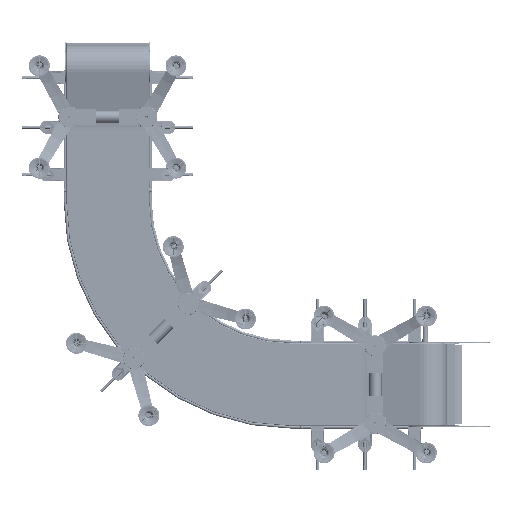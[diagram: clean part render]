
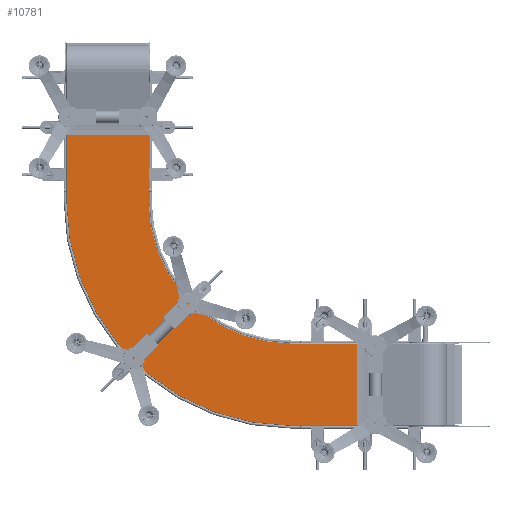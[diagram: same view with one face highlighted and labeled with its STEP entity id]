
A CAD part, front view. The second image highlights one B-rep face of the part: STEP entity #10781.
In plain terms, the highlighted planar face has unit normal (0, -1, 0) as drawn and (0, 1, 0) by its records, which use the part's own axes.
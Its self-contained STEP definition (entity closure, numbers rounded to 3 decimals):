
#7761=PLANE('',#61228);
#10781=ADVANCED_FACE('',(#14769),#7761,.T.);
#14769=FACE_OUTER_BOUND('',#18085,.T.);
#18085=EDGE_LOOP('',(#35925,#35926,#35927,#35928,#35929,#35930,#35931,#35932));
#20433=LINE('',#126877,#23124);
#20439=LINE('',#126890,#23130);
#20489=LINE('',#127019,#23180);
#20490=LINE('',#127021,#23181);
#20491=LINE('',#127023,#23182);
#20492=LINE('',#127024,#23183);
#23124=VECTOR('',#72258,1.);
#23130=VECTOR('',#72266,1.);
#23180=VECTOR('',#72404,1.);
#23181=VECTOR('',#72407,1.);
#23182=VECTOR('',#72408,1.);
#23183=VECTOR('',#72409,1.);
#35925=ORIENTED_EDGE('',*,*,#51700,.F.);
#35926=ORIENTED_EDGE('',*,*,#51701,.F.);
#35927=ORIENTED_EDGE('',*,*,#51659,.T.);
#35928=ORIENTED_EDGE('',*,*,#51631,.T.);
#35929=ORIENTED_EDGE('',*,*,#51702,.T.);
#35930=ORIENTED_EDGE('',*,*,#51625,.F.);
#35931=ORIENTED_EDGE('',*,*,#51655,.F.);
#35932=ORIENTED_EDGE('',*,*,#51699,.T.);
#44391=VERTEX_POINT('',#126875);
#44393=VERTEX_POINT('',#126878);
#44396=VERTEX_POINT('',#126885);
#44398=VERTEX_POINT('',#126889);
#44413=VERTEX_POINT('',#126937);
#44416=VERTEX_POINT('',#126944);
#44433=VERTEX_POINT('',#127018);
#44434=VERTEX_POINT('',#127022);
#51625=EDGE_CURVE('',#44391,#44393,#20433,.T.);
#51631=EDGE_CURVE('',#44396,#44398,#20439,.T.);
#51655=EDGE_CURVE('',#44413,#44391,#56399,.T.);
#51659=EDGE_CURVE('',#44416,#44396,#56402,.T.);
#51699=EDGE_CURVE('',#44413,#44433,#20489,.T.);
#51700=EDGE_CURVE('',#44434,#44433,#20490,.T.);
#51701=EDGE_CURVE('',#44416,#44434,#20491,.T.);
#51702=EDGE_CURVE('',#44398,#44393,#20492,.T.);
#56399=CIRCLE('',#61206,856.);
#56402=CIRCLE('',#61210,544.);
#61206=AXIS2_PLACEMENT_3D('',#126939,#72322,#72323);
#61210=AXIS2_PLACEMENT_3D('',#126946,#72331,#72332);
#61228=AXIS2_PLACEMENT_3D('',#127025,#72410,#72411);
#72258=DIRECTION('',(1.,0.,0.));
#72266=DIRECTION('',(1.,0.,0.));
#72322=DIRECTION('',(0.,-1.,0.));
#72323=DIRECTION('',(0.,0.,-1.));
#72331=DIRECTION('',(0.,-1.,0.));
#72332=DIRECTION('',(0.,0.,-1.));
#72404=DIRECTION('',(0.,0.,1.));
#72407=DIRECTION('',(-1.,0.,0.));
#72408=DIRECTION('',(0.,0.,1.));
#72409=DIRECTION('',(0.,0.,-1.));
#72410=DIRECTION('',(0.,1.,0.));
#72411=DIRECTION('',(0.,0.,-1.));
#126875=CARTESIAN_POINT('',(700.,59.75,-1106.));
#126877=CARTESIAN_POINT('',(700.,59.75,-1106.));
#126878=CARTESIAN_POINT('',(950.,59.75,-1106.));
#126885=CARTESIAN_POINT('',(700.,59.75,-794.));
#126889=CARTESIAN_POINT('',(950.,59.75,-794.));
#126890=CARTESIAN_POINT('',(700.,59.75,-794.));
#126937=CARTESIAN_POINT('',(-156.,59.75,-250.));
#126939=CARTESIAN_POINT('',(700.,59.75,-250.));
#126944=CARTESIAN_POINT('',(156.,59.75,-250.));
#126946=CARTESIAN_POINT('',(700.,59.75,-250.));
#127018=CARTESIAN_POINT('',(-156.,59.75,0.));
#127019=CARTESIAN_POINT('',(-156.,59.75,-250.));
#127021=CARTESIAN_POINT('',(156.,59.75,0.));
#127022=CARTESIAN_POINT('',(156.,59.75,0.));
#127023=CARTESIAN_POINT('',(156.,59.75,-250.));
#127024=CARTESIAN_POINT('',(950.,59.75,-794.));
#127025=CARTESIAN_POINT('',(156.,59.75,-250.));
